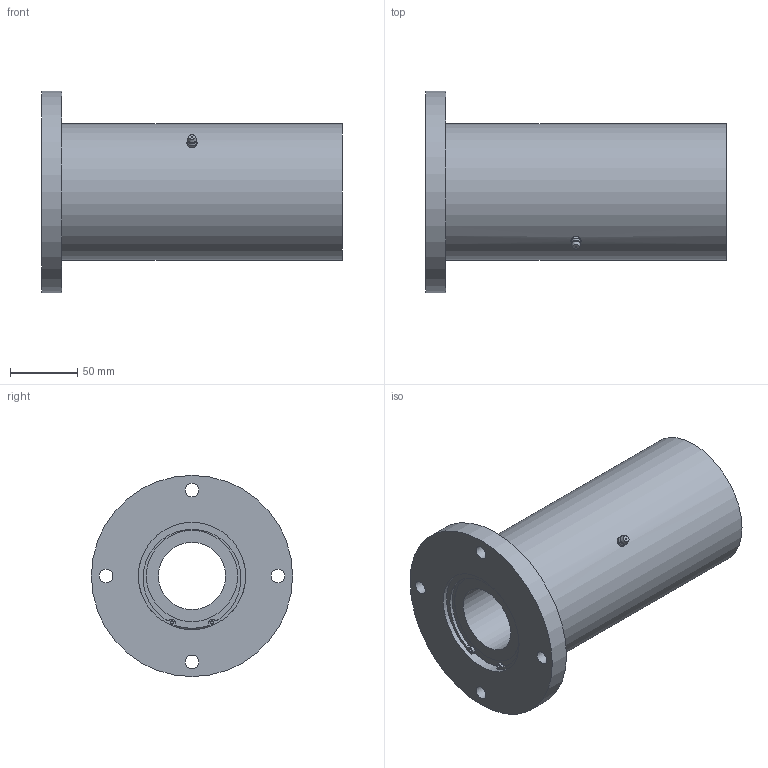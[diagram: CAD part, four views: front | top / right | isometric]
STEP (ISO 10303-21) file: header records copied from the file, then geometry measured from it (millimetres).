
FILE_DESCRIPTION((''),'2;1');
FILE_NAME('D:\製品 (図面)\カタログ用3D\リニアベアリング関連(改)\STEP形式\LFW-OH\LFW50-OH.stp','2010-01-22T16:18:26',('Tsuchiya'),(''),'Autodesk Inventor 10','Autodesk Inventor 10','');
FILE_SCHEMA(('AUTOMOTIVE_DESIGN { 1 0 10303 214 1 1 1 1 }'));
Length unit declared in the file: millimetre
Products named in the file (1): LFW50-OH
Bounding box: 224 x 150 x 150 mm (x, y, z)
Volume: 1489771 mm3; surface area: 163760.9 mm2
Topology: 1 solids, 7 shells, 95 faces, 204 edges, 132 vertices
Faces by surface type: bspline 31, cylinder 27, plane 26, cone 7, sphere 2, torus 2
Full cylindrical faces by diameter (mm): 2.5 x2, 10.106 x4, 50 x2, 68 x2, 76.5 x2, 80 x8, 102 x1, 150 x1
Entity records: 2701 total; most frequent: CARTESIAN_POINT 853, DIRECTION 374, ORIENTED_EDGE 304, EDGE_LOOP 170, AXIS2_PLACEMENT_3D 169, EDGE_CURVE 152, VERTEX_POINT 120, CIRCLE 100
